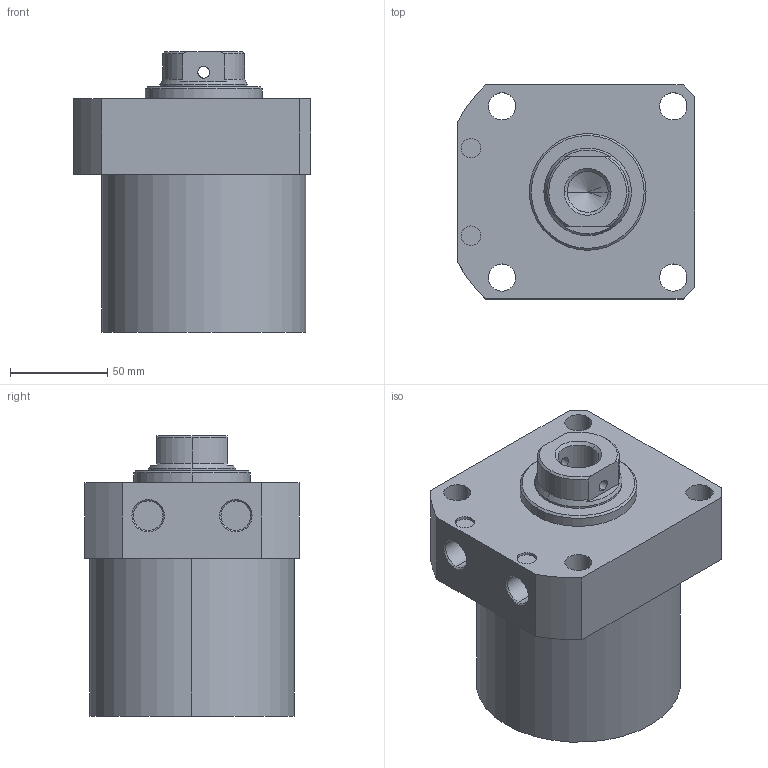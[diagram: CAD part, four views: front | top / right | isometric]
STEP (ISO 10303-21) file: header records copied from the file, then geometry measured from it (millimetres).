
FILE_DESCRIPTION (( 'STEP AP203' ), '1' );
FILE_NAME ('CLLR-105CB-060.STEP', '2019-12-19T01:45:22', ( '' ), ( '' ), 'SwSTEP 2.0', 'SolidWorks 2015', '' );
FILE_SCHEMA (( 'CONFIG_CONTROL_DESIGN' ));
Length unit declared in the file: millimetre
Products named in the file (1): CLLR-105CB-060
Bounding box: 122 x 110 x 144 mm (x, y, z)
Volume: 1203457.6 mm3; surface area: 84674.2 mm2
Topology: 1 solids, 1 shells, 67 faces, 160 edges, 101 vertices
Faces by surface type: cylinder 33, plane 19, cone 15
Entity records: 2165 total; most frequent: CARTESIAN_POINT 471, DIRECTION 358, ORIENTED_EDGE 316, EDGE_CURVE 158, AXIS2_PLACEMENT_3D 144, VERTEX_POINT 101, EDGE_LOOP 87, CIRCLE 76
